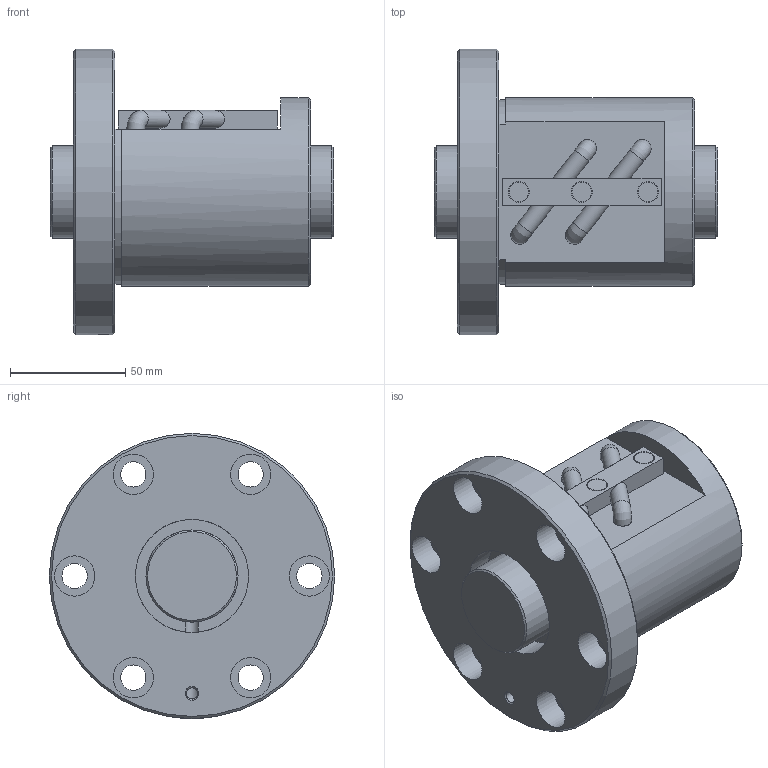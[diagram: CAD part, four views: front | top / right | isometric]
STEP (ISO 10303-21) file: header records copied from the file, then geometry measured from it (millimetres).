
FILE_DESCRIPTION(/* description */ ('STEP AP203'),/* implementation_level */ '2;1');
FILE_NAME(/* name */ 'BIF4010V-5RRG0+123LC0_000',/* time_stamp */ '2024-07-15T08:24:19+02:00',/* author */ ('License CC BY-ND 4.0'),/* organization */ ('CADENAS'),/* preprocessor_version */ 'ST-DEVELOPER v19.3',/* originating_system */ 'PARTsolutions',/* authorisation */ ' ');
FILE_SCHEMA (('CONFIG_CONTROL_DESIGN'));
Length unit declared in the file: millimetre
Products named in the file (3): BIF4010V-5RRG0+123LC0_000; BIF4010V-5RR000 Shaft; BIF4010V-5RR Nut
Assembly tree (2 placements, depth 2):
  BIF4010V-5RRG0+123LC0_000
    BIF4010V-5RR000 Shaft
    BIF4010V-5RR Nut
Bounding box: 123 x 124 x 124 mm (x, y, z)
Volume: 623007.8 mm3; surface area: 90501 mm2
Topology: 2 solids, 2 shells, 87 faces, 195 edges, 124 vertices
Faces by surface type: plane 41, cylinder 36, cone 6, torus 4
Full cylindrical faces by diameter (mm): 4.917 x1, 6.199 x2, 7.8 x4, 8.5 x3, 9.1 x3, 11 x6, 17.5 x6, 40 x2, 49.2 x2, 82 x1, 124 x1
Entity records: 2349 total; most frequent: CARTESIAN_POINT 446, DIRECTION 416, ORIENTED_EDGE 288, AXIS2_PLACEMENT_3D 190, EDGE_LOOP 162, FACE_BOUND 162, EDGE_CURVE 144, VERTEX_POINT 112
